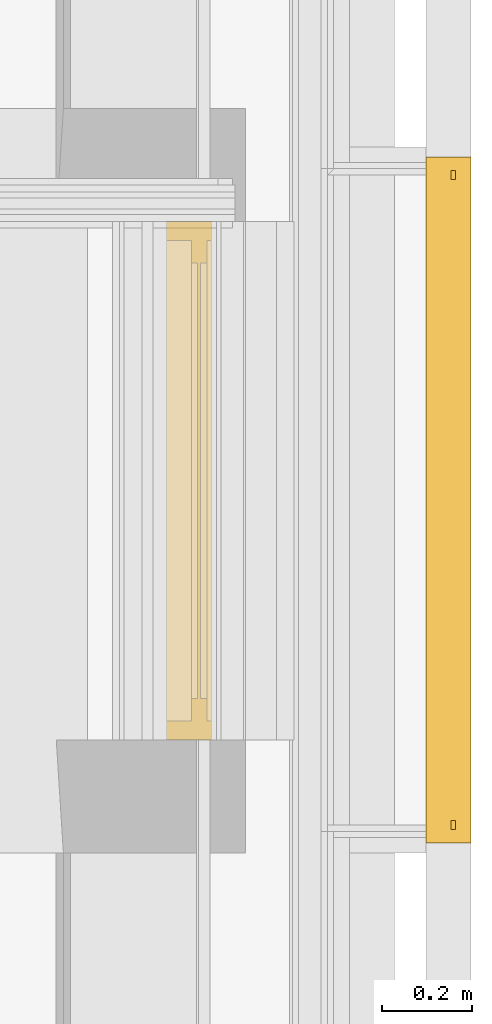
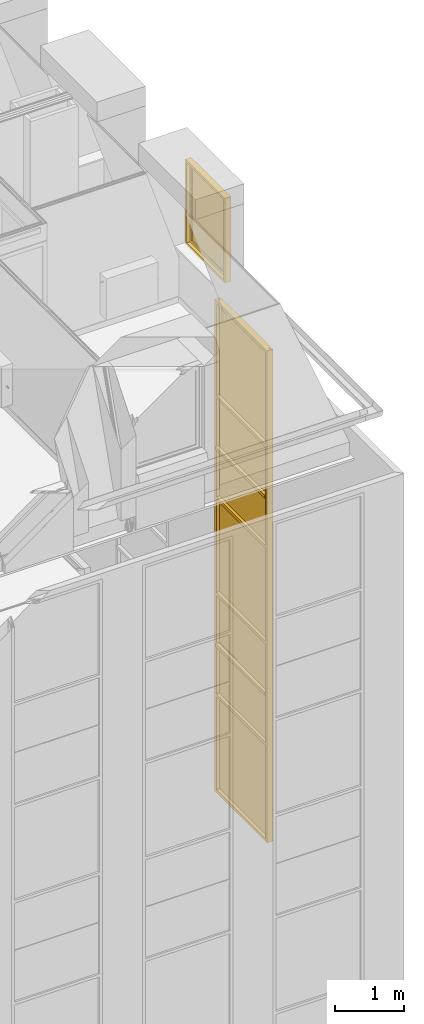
# One storey, part 130 of 169: 1 curtain wall, 1 window.
"""IFC2X3 building model written with IfcOpenShell, lengths in metres."""

import ifcopenshell
import ifcopenshell.guid

model = None  # the IFC model being written
_history = None  # IfcOwnerHistory: only IFC2X3 demands one
_inside = {}  # id of a spatial element -> (the spatial element, [elements in it])
_under = {}  # id of a project, library or spatial element -> (it, [spatial elements below it])
_declared = {}  # id of a project -> (the project, [libraries it declares])
_typed = {}  # id of a type object -> (the type object, [elements of that type])
_made_of = {}  # id of a material, layer set ... -> (it, [elements and type objects made of it])


def new_model(schema):
    """Start an empty IFC model of exactly this schema.

    Asked for "IFC4X3", IfcOpenShell would pick the latest addendum, in which some entities
    have other attributes; the version numbers below select the first issue.
    IFC2X3 requires an IfcOwnerHistory on every rooted entity: one is made here for all.
    """
    global model, _history
    if schema == "IFC4X3":
        model = ifcopenshell.file(schema_version=(4, 3, 0, 0))
    else:
        model = ifcopenshell.file(schema=schema)
    _inside.clear()
    _under.clear()
    _declared.clear()
    _typed.clear()
    _made_of.clear()
    _history = None
    if model.schema == "IFC2X3":
        org = make("IfcOrganization", Name="unknown")
        user = make(
            "IfcPersonAndOrganization",
            ThePerson=make("IfcPerson", FamilyName="unknown"),
            TheOrganization=org,
        )
        app = make(
            "IfcApplication",
            ApplicationDeveloper=org,
            Version="unknown",
            ApplicationFullName="unknown",
            ApplicationIdentifier="unknown",
        )
        _history = make(
            "IfcOwnerHistory",
            OwningUser=user,
            OwningApplication=app,
            ChangeAction="ADDED",
            CreationDate=0,
        )
    return model


def make(cls, **values):
    """One entity of the class cls with the attributes given. An attribute that is None is left unset."""
    return model.create_entity(
        cls, **{name: value for name, value in values.items() if value is not None}
    )


def entity(cls, *values):
    """Any entity or typed value of the class cls, its attributes in the order of the schema. None: left unset."""
    e = model.create_entity(cls)
    for i, value in enumerate(values):
        if value is not None:
            e[i] = value
    return e


def rooted(cls, **values):
    """An entity with a GlobalId (a new one), such as an element, a storey or a relation."""
    return make(cls, GlobalId=ifcopenshell.guid.new(), OwnerHistory=_history, **values)


def si_unit(unit_type, name, prefix=None):
    """IfcSIUnit, for example si_unit("LENGTHUNIT", "METRE", prefix="MILLI")."""
    return make("IfcSIUnit", UnitType=unit_type, Prefix=prefix, Name=name)


def converted_unit(unit_type, name, factor, base, dimensions=None, offset=None):
    """IfcConversionBasedUnit, such as the inch: factor (a typed value) times the base unit."""
    return make(
        "IfcConversionBasedUnit"
        if offset is None
        else "IfcConversionBasedUnitWithOffset",
        ConversionOffset=offset,
        Dimensions=None
        if dimensions is None
        else entity("IfcDimensionalExponents", *dimensions),
        UnitType=unit_type,
        Name=name,
        ConversionFactor=make(
            "IfcMeasureWithUnit", ValueComponent=factor, UnitComponent=base
        ),
    )


def derived_unit(unit_type, elements):
    """IfcDerivedUnit: a product of units, each with its exponent."""
    return make(
        "IfcDerivedUnit",
        Elements=[
            make("IfcDerivedUnitElement", Unit=unit, Exponent=power)
            for unit, power in elements
        ],
        UnitType=unit_type,
    )


def money_unit(currency):
    """IfcMonetaryUnit."""
    return make("IfcMonetaryUnit", Currency=currency)


def assignment(units):
    """IfcUnitAssignment: the units of a project."""
    return None if units is None else make("IfcUnitAssignment", Units=units)


def point(xyz):
    """IfcCartesianPoint."""
    return None if xyz is None else make("IfcCartesianPoint", Coordinates=xyz)


def direction(xyz):
    """IfcDirection."""
    return None if xyz is None else make("IfcDirection", DirectionRatios=xyz)


def frame(location, z_axis=None, x_axis=None):
    """IfcAxis2Placement3D, a coordinate frame: its origin and axes. An axis left out is left unset."""
    return make(
        "IfcAxis2Placement3D",
        Location=point(location),
        Axis=direction(z_axis),
        RefDirection=direction(x_axis),
    )


def origin_with_axes():
    """The frame at (0, 0, 0) with the z axis (0, 0, 1) and the x axis (1, 0, 0) written out."""
    return frame((0.0, 0.0, 0.0), z_axis=(0.0, 0.0, 1.0), x_axis=(1.0, 0.0, 0.0))


def place(relative_to, where):
    """IfcLocalPlacement: puts the frame where relative to a parent placement (None: the world)."""
    return make(
        "IfcLocalPlacement", PlacementRelTo=relative_to, RelativePlacement=where
    )


def context(
    kind, dimensions, precision=None, world=None, true_north=None, identifier=None
):
    """IfcGeometricRepresentationContext, for example the 3D "Model" context."""
    return make(
        "IfcGeometricRepresentationContext",
        ContextIdentifier=identifier,
        ContextType=kind,
        CoordinateSpaceDimension=dimensions,
        Precision=precision,
        WorldCoordinateSystem=world,
        TrueNorth=true_north,
    )


def subcontext(parent, identifier, kind, view, scale=None):
    """IfcGeometricRepresentationSubContext, for example "Body" below "Model"."""
    return make(
        "IfcGeometricRepresentationSubContext",
        ContextIdentifier=identifier,
        ContextType=kind,
        ParentContext=parent,
        TargetScale=scale,
        TargetView=view,
    )


def project(units=None, contexts=None):
    """IfcProject with its units and contexts."""
    return rooted(
        "IfcProject",
        Name="project",
        RepresentationContexts=contexts,
        UnitsInContext=assignment(units),
    )


def spatial(cls, under=None, at=None, **own):
    """A site, building, storey or space (cls), placed at a placement, below another one or the project."""
    s = rooted(cls, ObjectPlacement=at, **own)
    if under is not None:
        _under.setdefault(under.id(), (under, []))[1].append(s)
    return s


def faces_of(points, faces, orient=None, outer=None):
    """IfcFace entities. A face is a list of loops; a loop is a list of indices into points, from 0.

    orient and outer hold one flag for each loop. By default every Orientation is true, the
    first loop of a face is its IfcFaceOuterBound and the others are IfcFaceBound.
    """
    made = []
    for i, loops in enumerate(faces):
        bounds = []
        for j, loop in enumerate(loops):
            is_outer = j == 0 if outer is None else outer[i][j]
            bounds.append(
                make(
                    "IfcFaceOuterBound" if is_outer else "IfcFaceBound",
                    Bound=make("IfcPolyLoop", Polygon=[points[k] for k in loop]),
                    Orientation=True if orient is None else orient[i][j],
                )
            )
        made.append(make("IfcFace", Bounds=bounds))
    return made


def faceted_brep(points, faces, orient=None, outer=None, voids=None):
    """IfcFacetedBrep: a solid bounded by flat faces; with voids (closed shells), ...WithVoids."""
    shared = [point(p) for p in points]
    hull = make("IfcClosedShell", CfsFaces=faces_of(shared, faces, orient, outer))
    if voids is None:
        return make("IfcFacetedBrep", Outer=hull)
    return make(
        "IfcFacetedBrepWithVoids",
        Outer=hull,
        Voids=[
            make(cls, CfsFaces=faces_of(shared, fs, o, b)) for cls, fs, o, b in voids
        ],
    )


def shape(context_of_items, identifier, shape_type, items):
    """IfcShapeRepresentation: the items that make up one representation, for example the "Body"."""
    return make(
        "IfcShapeRepresentation",
        ContextOfItems=context_of_items,
        RepresentationIdentifier=identifier,
        RepresentationType=shape_type,
        Items=items,
    )


def material(Name=None, Category=None):
    """IfcMaterial."""
    return make("IfcMaterial", Name=Name, Category=Category)


def made_of(thing, what):
    """Note that an element or type object is made of a material, layer set ...; save() writes the relation."""
    if what is not None:
        _made_of.setdefault(what.id(), (what, []))[1].append(thing)
    return thing


def type_object(cls, material=None, **own):
    """A type object (cls), such as IfcWallType, which elements share."""
    return made_of(rooted(cls, **own), material)


def element(
    cls,
    number,
    at=None,
    inside=None,
    cuts=None,
    type_object=None,
    material=None,
    context=None,
    identifier="Body",
    shape_type=None,
    held_by="IfcProductDefinitionShape",
    body=None,
    shapes=None,
    **own,
):
    """One element of the class cls, such as IfcWall. Its Tag is "e" and its number.

    at: its placement. inside: the storey or other place that contains it. cuts: it is an
    opening in that element (IfcRelVoidsElement). A single representation is given by context,
    identifier, shape_type and body (its items); several are given by shapes. held_by: the class
    of the entity that holds the representations. save() writes the other relations.
    """
    e = rooted(cls, Tag="e%d" % number, ObjectPlacement=at, **own)
    if body is not None:
        shapes = [shape(context, identifier, shape_type, body)]
    if shapes is not None:
        e.Representation = make(held_by, Representations=shapes)
    if inside is not None:
        _inside.setdefault(inside.id(), (inside, []))[1].append(e)
    if cuts is not None:
        rooted(
            "IfcRelVoidsElement", RelatingBuildingElement=cuts, RelatedOpeningElement=e
        )
    if type_object is not None:
        _typed.setdefault(type_object.id(), (type_object, []))[1].append(e)
    return made_of(e, material)


def aggregate(whole, parts):
    """IfcRelAggregates: a whole, such as a stair, and the parts it consists of."""
    return rooted("IfcRelAggregates", RelatingObject=whole, RelatedObjects=parts)


def save(model, path):
    """Write the relations noted so far, then the file.

    IfcRelAggregates (storeys below a building ...), IfcRelContainedInSpatialStructure (elements
    in a storey), IfcRelDefinesByType, IfcRelAssociatesMaterial and IfcRelDeclares: one each for
    every whole, place, type object, material and project.
    """
    for whole, parts in _under.values():
        aggregate(whole, parts)
    for where, things in _inside.values():
        rooted(
            "IfcRelContainedInSpatialStructure",
            RelatedElements=things,
            RelatingStructure=where,
        )
    for kind, things in _typed.values():
        rooted("IfcRelDefinesByType", RelatedObjects=things, RelatingType=kind)
    for what, things in _made_of.values():
        rooted("IfcRelAssociatesMaterial", RelatedObjects=things, RelatingMaterial=what)
    for by, libraries in _declared.values():
        rooted("IfcRelDeclares", RelatingContext=by, RelatedDefinitions=libraries)
    model.write(path)


model = new_model("IFC2X3")

# Units and contexts
model_context = context("Model", 3, precision=1e-05, world=origin_with_axes(), true_north=direction((0.0, 1.0)))
body_context = subcontext(model_context, "Body", "Model", "MODEL_VIEW", scale=1.0)
ifc_project = project(units=[si_unit("LENGTHUNIT", "METRE"), si_unit("AREAUNIT", "SQUARE_METRE"), si_unit("VOLUMEUNIT", "CUBIC_METRE"), si_unit("ABSORBEDDOSEUNIT", "GRAY"), si_unit("AMOUNTOFSUBSTANCEUNIT", "MOLE"), si_unit("DOSEEQUIVALENTUNIT", "SIEVERT"), si_unit("ELECTRICCAPACITANCEUNIT", "FARAD"), si_unit("ELECTRICCHARGEUNIT", "COULOMB"), si_unit("ELECTRICCONDUCTANCEUNIT", "SIEMENS"), si_unit("ELECTRICCURRENTUNIT", "AMPERE"), si_unit("ELECTRICRESISTANCEUNIT", "OHM"), si_unit("ELECTRICVOLTAGEUNIT", "VOLT"), si_unit("ENERGYUNIT", "JOULE"), si_unit("FORCEUNIT", "NEWTON"), si_unit("FREQUENCYUNIT", "HERTZ"), si_unit("ILLUMINANCEUNIT", "LUX"), si_unit("INDUCTANCEUNIT", "HENRY"), si_unit("LUMINOUSFLUXUNIT", "LUMEN"), si_unit("LUMINOUSINTENSITYUNIT", "CANDELA"), si_unit("MAGNETICFLUXDENSITYUNIT", "TESLA"), si_unit("MAGNETICFLUXUNIT", "WEBER"), si_unit("MASSUNIT", "GRAM"), converted_unit("PLANEANGLEUNIT", "degree", entity("IfcReal", 0.0174532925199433), si_unit("PLANEANGLEUNIT", "RADIAN"), dimensions=[0, 0, 0, 0, 0, 0, 0]), si_unit("POWERUNIT", "WATT"), si_unit("PRESSUREUNIT", "PASCAL"), si_unit("RADIOACTIVITYUNIT", "BECQUEREL"), si_unit("SOLIDANGLEUNIT", "STERADIAN"), si_unit("THERMODYNAMICTEMPERATUREUNIT", "KELVIN"), si_unit("TIMEUNIT", "SECOND"), derived_unit("ACCELERATIONUNIT", [(si_unit("LENGTHUNIT", "METRE"), 1), (si_unit("TIMEUNIT", "SECOND"), -2)]), derived_unit("ANGULARVELOCITYUNIT", [(converted_unit("PLANEANGLEUNIT", "degree", entity("IfcReal", 0.0174532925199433), si_unit("PLANEANGLEUNIT", "RADIAN"), dimensions=[0, 0, 0, 0, 0, 0, 0]), 1), (si_unit("TIMEUNIT", "SECOND"), -1)]), derived_unit("CURVATUREUNIT", [(converted_unit("PLANEANGLEUNIT", "degree", entity("IfcReal", 0.0174532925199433), si_unit("PLANEANGLEUNIT", "RADIAN"), dimensions=[0, 0, 0, 0, 0, 0, 0]), 1), (si_unit("LENGTHUNIT", "METRE"), -1)]), derived_unit("DYNAMICVISCOSITYUNIT", [(si_unit("PRESSUREUNIT", "PASCAL"), 1), (si_unit("TIMEUNIT", "SECOND"), 1)]), derived_unit("HEATFLUXDENSITYUNIT", [(si_unit("POWERUNIT", "WATT"), 1), (si_unit("LENGTHUNIT", "METRE"), -2)]), derived_unit("HEATINGVALUEUNIT", [(si_unit("ENERGYUNIT", "JOULE"), 1), (si_unit("MASSUNIT", "GRAM"), -1)]), derived_unit("INTEGERCOUNTRATEUNIT", [(si_unit("TIMEUNIT", "SECOND"), -1)]), derived_unit("IONCONCENTRATIONUNIT", [(si_unit("MASSUNIT", "GRAM"), 1), (si_unit("VOLUMEUNIT", "CUBIC_METRE"), -1)]), derived_unit("ISOTHERMALMOISTURECAPACITYUNIT", [(si_unit("VOLUMEUNIT", "CUBIC_METRE"), 1), (si_unit("MASSUNIT", "GRAM"), -1)]), derived_unit("KINEMATICVISCOSITYUNIT", [(si_unit("AREAUNIT", "SQUARE_METRE"), 1), (si_unit("TIMEUNIT", "SECOND"), -1)]), derived_unit("LINEARFORCEUNIT", [(si_unit("FORCEUNIT", "NEWTON"), 1), (si_unit("LENGTHUNIT", "METRE"), -1)]), derived_unit("LINEARMOMENTUNIT", [(si_unit("FORCEUNIT", "NEWTON"), 1), (si_unit("LENGTHUNIT", "METRE"), -1)]), derived_unit("LINEARSTIFFNESSUNIT", [(si_unit("FORCEUNIT", "NEWTON"), 1), (si_unit("LENGTHUNIT", "METRE"), -1)]), derived_unit("LINEARVELOCITYUNIT", [(si_unit("LENGTHUNIT", "METRE"), 1), (si_unit("TIMEUNIT", "SECOND"), -1)]), derived_unit("LUMINOUSINTENSITYDISTRIBUTIONUNIT", [(si_unit("LUMINOUSINTENSITYUNIT", "CANDELA"), 1), (si_unit("LUMINOUSFLUXUNIT", "LUMEN"), -1)]), derived_unit("MASSDENSITYUNIT", [(si_unit("MASSUNIT", "GRAM"), 1), (si_unit("VOLUMEUNIT", "CUBIC_METRE"), -1)]), derived_unit("MASSFLOWRATEUNIT", [(si_unit("MASSUNIT", "GRAM"), 1), (si_unit("TIMEUNIT", "SECOND"), -1)]), derived_unit("MASSPERLENGTHUNIT", [(si_unit("MASSUNIT", "GRAM"), 1), (si_unit("LENGTHUNIT", "METRE"), -1)]), derived_unit("MODULUSOFELASTICITYUNIT", [(si_unit("FORCEUNIT", "NEWTON"), 1), (si_unit("AREAUNIT", "SQUARE_METRE"), -1)]), derived_unit("MODULUSOFLINEARSUBGRADEREACTIONUNIT", [(si_unit("FORCEUNIT", "NEWTON"), 1), (si_unit("LENGTHUNIT", "METRE"), -2)]), derived_unit("MODULUSOFROTATIONALSUBGRADEREACTIONUNIT", [(si_unit("FORCEUNIT", "NEWTON"), 1), (si_unit("LENGTHUNIT", "METRE"), 1)]), derived_unit("MODULUSOFSUBGRADEREACTIONUNIT", [(si_unit("FORCEUNIT", "NEWTON"), 1), (si_unit("VOLUMEUNIT", "CUBIC_METRE"), -1)]), derived_unit("MOISTUREDIFFUSIVITYUNIT", [(si_unit("VOLUMEUNIT", "CUBIC_METRE"), 1), (si_unit("TIMEUNIT", "SECOND"), -1)]), derived_unit("MOLECULARWEIGHTUNIT", [(si_unit("MASSUNIT", "GRAM"), 1), (si_unit("AMOUNTOFSUBSTANCEUNIT", "MOLE"), -1)]), derived_unit("PLANARFORCEUNIT", [(si_unit("FORCEUNIT", "NEWTON"), 1), (si_unit("LENGTHUNIT", "METRE"), -2)]), derived_unit("ROTATIONALFREQUENCYUNIT", [(si_unit("TIMEUNIT", "SECOND"), -1)]), derived_unit("ROTATIONALMASSUNIT", [(si_unit("MASSUNIT", "GRAM"), 1), (si_unit("LENGTHUNIT", "METRE"), 2)]), derived_unit("ROTATIONALSTIFFNESSUNIT", [(si_unit("FORCEUNIT", "NEWTON"), 1), (si_unit("LENGTHUNIT", "METRE"), 1), (converted_unit("PLANEANGLEUNIT", "degree", entity("IfcReal", 0.0174532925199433), si_unit("PLANEANGLEUNIT", "RADIAN"), dimensions=[0, 0, 0, 0, 0, 0, 0]), -1)]), derived_unit("SECTIONAREAINTEGRALUNIT", [(si_unit("LENGTHUNIT", "METRE"), 5)]), derived_unit("SECTIONMODULUSUNIT", [(si_unit("LENGTHUNIT", "METRE"), 3)]), derived_unit("SHEARMODULUSUNIT", [(si_unit("FORCEUNIT", "NEWTON"), 1), (si_unit("AREAUNIT", "SQUARE_METRE"), -1)]), derived_unit("SOUNDPOWERUNIT", [(si_unit("ENERGYUNIT", "JOULE"), 1), (si_unit("TIMEUNIT", "SECOND"), -1)]), derived_unit("SPECIFICHEATCAPACITYUNIT", [(si_unit("FORCEUNIT", "NEWTON"), 1), (si_unit("MASSUNIT", "GRAM"), -1), (si_unit("THERMODYNAMICTEMPERATUREUNIT", "KELVIN"), -1)]), derived_unit("TEMPERATUREGRADIENTUNIT", [(si_unit("THERMODYNAMICTEMPERATUREUNIT", "KELVIN"), 1), (si_unit("LENGTHUNIT", "METRE"), -1)]), derived_unit("THERMALADMITTANCEUNIT", [(si_unit("POWERUNIT", "WATT"), 1), (si_unit("AREAUNIT", "SQUARE_METRE"), -1), (si_unit("THERMODYNAMICTEMPERATUREUNIT", "KELVIN"), -1)]), derived_unit("THERMALCONDUCTANCEUNIT", [(si_unit("POWERUNIT", "WATT"), 1), (si_unit("LENGTHUNIT", "METRE"), -1), (si_unit("THERMODYNAMICTEMPERATUREUNIT", "KELVIN"), -1)]), derived_unit("THERMALEXPANSIONCOEFFICIENTUNIT", [(si_unit("THERMODYNAMICTEMPERATUREUNIT", "KELVIN"), -1)]), derived_unit("THERMALRESISTANCEUNIT", [(si_unit("AREAUNIT", "SQUARE_METRE"), 1), (si_unit("POWERUNIT", "WATT"), -1)]), derived_unit("THERMALTRANSMITTANCEUNIT", [(si_unit("POWERUNIT", "WATT"), 1), (si_unit("AREAUNIT", "SQUARE_METRE"), -1), (si_unit("THERMODYNAMICTEMPERATUREUNIT", "KELVIN"), -1)]), derived_unit("TORQUEUNIT", [(si_unit("FORCEUNIT", "NEWTON"), 1), (si_unit("LENGTHUNIT", "METRE"), 1)]), derived_unit("VAPORPERMEABILITYUNIT", [(si_unit("MASSUNIT", "GRAM"), 1), (si_unit("TIMEUNIT", "SECOND"), -1)]), derived_unit("VOLUMETRICFLOWRATEUNIT", [(si_unit("VOLUMEUNIT", "CUBIC_METRE"), 1), (si_unit("TIMEUNIT", "SECOND"), -1)]), derived_unit("WARPINGCONSTANTUNIT", [(si_unit("LENGTHUNIT", "METRE"), 6)]), derived_unit("WARPINGMOMENTUNIT", [(si_unit("FORCEUNIT", "NEWTON"), 1), (si_unit("LENGTHUNIT", "METRE"), 2)]), money_unit("GBP")], contexts=[model_context])

# Site, building, storey
site_placement = place(None, origin_with_axes())
site = spatial("IfcSite", under=ifc_project, at=site_placement, Name="Site", CompositionType="ELEMENT")
building_placement = place(site_placement, origin_with_axes())
building = spatial("IfcBuilding", under=site, at=building_placement, Name="Building01", CompositionType="ELEMENT")
storey_placement = place(building_placement, frame((0.0, 0.0, 5.15), z_axis=(0.0, 0.0, 1.0), x_axis=(1.0, 0.0, 0.0)))
storey = spatial("IfcBuildingStorey", under=building, at=storey_placement, Name="1F", CompositionType="ELEMENT", Elevation=5.15)

# Curtain wall
ifc_material_1 = material(Name="A-CurtainWall_Frame")
curtain_wall_type = type_object("IfcCurtainWallType", Name="Pattern - Maximum Spacing", PredefinedType="NOTDEFINED")
curtain_wall_placement = place(storey_placement, frame((0.0, 0.0, -5.15), z_axis=(0.0, 0.0, 1.0), x_axis=(1.0, 0.0, 0.0)))
element("IfcCurtainWall", 1, at=curtain_wall_placement, inside=storey, type_object=curtain_wall_type, material=ifc_material_1, Name="28", ObjectType="Pattern - Maximum Spacing", context=body_context, shape_type="Brep", body=[
    faceted_brep([(26.935, 3.82718, 6.045508), (26.945, 3.82718, 6.045508), (26.945, 3.82718, 7.729632), (26.935, 3.82718, 7.729632), (26.935, 5.28718, 6.045508), (26.945, 5.28718, 6.045508), (26.935, 5.28718, 7.729632), (26.945, 5.28718, 7.729632)], [[[0, 1, 2, 3]], [[4, 5, 1, 0]], [[6, 7, 5, 4]], [[3, 2, 7, 6]], [[1, 5, 7, 2]], [[3, 6, 4, 0]]]),
    faceted_brep([(26.935, 3.82718, 6.015508), (26.945, 3.82718, 6.015508), (26.945, 3.84718, 6.015508), (26.98, 3.84718, 6.015508), (26.98, 3.79718, 6.015508), (26.88, 3.79718, 6.015508), (26.88, 3.84718, 6.015508), (26.935, 3.84718, 6.015508), (26.935, 3.84718, 7.734632), (26.935, 3.82718, 7.734632), (26.945, 3.82718, 7.734632), (26.945, 3.84718, 7.734632), (26.98, 3.84718, 7.734632), (26.98, 3.79718, 7.734632), (26.88, 3.79718, 7.734632), (26.88, 3.84718, 7.734632)], [[[0, 1, 2, 3, 4, 5, 6, 7]], [[7, 8, 9, 0]], [[0, 9, 10, 1]], [[1, 10, 11, 2]], [[2, 11, 12, 3]], [[3, 12, 13, 4]], [[4, 13, 14, 5]], [[5, 14, 15, 6]], [[6, 15, 8, 7]]]),
    faceted_brep([(26.935, 5.26718, 6.045508), (26.945, 5.26718, 6.045508), (26.945, 5.26718, 6.065508), (26.98, 5.26718, 6.065508), (26.98, 5.26718, 6.015508), (26.88, 5.26718, 6.015508), (26.88, 5.26718, 6.065508), (26.935, 5.26718, 6.065508), (26.935, 3.84718, 6.065508), (26.935, 3.84718, 6.045508), (26.945, 3.84718, 6.045508), (26.945, 3.84718, 6.065508), (26.98, 3.84718, 6.065508), (26.98, 3.84718, 6.015508), (26.88, 3.84718, 6.015508), (26.88, 3.84718, 6.065508)], [[[0, 1, 2, 3, 4, 5, 6, 7]], [[7, 8, 9, 0]], [[0, 9, 10, 1]], [[1, 10, 11, 2]], [[2, 11, 12, 3]], [[3, 12, 13, 4]], [[4, 13, 14, 5]], [[5, 14, 15, 6]], [[6, 15, 8, 7]], [[8, 15, 14, 13, 12, 11, 10, 9]]]),
    faceted_brep([(26.88, 5.26718, 6.015508), (26.88, 5.26718, 7.734632), (26.88, 5.31718, 7.734632), (26.88, 5.31718, 6.015508), (26.935, 5.26718, 6.015508), (26.935, 5.26718, 7.734632), (26.935, 5.28718, 6.015508), (26.935, 5.28718, 7.734632), (26.945, 5.28718, 6.015508), (26.945, 5.28718, 7.734632), (26.945, 5.26718, 6.015508), (26.945, 5.26718, 7.734632), (26.98, 5.26718, 6.015508), (26.98, 5.26718, 7.734632), (26.98, 5.31718, 6.015508), (26.98, 5.31718, 7.734632)], [[[0, 1, 2, 3]], [[4, 5, 1, 0]], [[6, 7, 5, 4]], [[8, 9, 7, 6]], [[10, 11, 9, 8]], [[12, 13, 11, 10]], [[14, 15, 13, 12]], [[3, 2, 15, 14]], [[14, 12, 10, 8, 6, 4, 0, 3]]]),
    faceted_brep([(26.935, 3.84718, 7.729632), (26.945, 3.84718, 7.729632), (26.945, 3.84718, 7.709632), (26.98, 3.84718, 7.709632), (26.98, 3.84718, 7.759632), (26.945, 3.84718, 7.759632), (26.945, 3.84718, 7.739632), (26.935, 3.84718, 7.739632), (26.935, 3.84718, 7.759632), (26.88, 3.84718, 7.759632), (26.88, 3.84718, 7.709632), (26.935, 3.84718, 7.709632), (26.935, 5.26718, 7.709632), (26.935, 5.26718, 7.729632), (26.945, 5.26718, 7.729632), (26.945, 5.26718, 7.709632), (26.98, 5.26718, 7.709632), (26.98, 5.26718, 7.759632), (26.945, 5.26718, 7.759632), (26.935, 5.26718, 7.739632), (26.935, 5.26718, 7.759632), (26.945, 5.26718, 7.739632), (26.88, 5.26718, 7.709632), (26.88, 5.26718, 7.759632)], [[[0, 1, 2, 3, 4, 5, 6, 7, 8, 9, 10, 11]], [[11, 12, 13, 0]], [[0, 13, 14, 1]], [[1, 14, 15, 2]], [[2, 15, 16, 3]], [[3, 16, 17, 4]], [[4, 17, 18, 5]], [[7, 19, 20, 8]], [[6, 21, 19, 7]], [[5, 18, 21, 6]], [[10, 22, 12, 11]], [[9, 23, 22, 10]], [[8, 20, 23, 9]], [[20, 19, 21, 18, 17, 16, 15, 14, 13, 12, 22, 23]]]),
    faceted_brep([(26.93, 3.82718, 7.739632), (26.95, 3.82718, 7.739632), (26.95, 3.82718, 8.626522), (26.93, 3.82718, 8.626522), (26.93, 5.28718, 7.739632), (26.95, 5.28718, 7.739632), (26.93, 5.28718, 8.626522), (26.95, 5.28718, 8.626522)], [[[0, 1, 2, 3]], [[4, 5, 1, 0]], [[6, 7, 5, 4]], [[3, 2, 7, 6]], [[1, 5, 7, 2]], [[3, 6, 4, 0]]]),
    faceted_brep([(26.88, 3.84718, 8.631522), (26.88, 3.84718, 7.734632), (26.88, 3.79718, 7.734632), (26.88, 3.79718, 8.631522), (26.935, 3.84718, 8.631522), (26.935, 3.84718, 7.734632), (26.935, 3.82718, 8.631522), (26.935, 3.82718, 7.734632), (26.945, 3.82718, 8.631522), (26.945, 3.82718, 7.734632), (26.945, 3.84718, 8.631522), (26.945, 3.84718, 7.734632), (26.98, 3.84718, 8.631522), (26.98, 3.84718, 7.734632), (26.98, 3.79718, 8.631522), (26.98, 3.79718, 7.734632)], [[[0, 1, 2, 3]], [[4, 5, 1, 0]], [[6, 7, 5, 4]], [[8, 9, 7, 6]], [[10, 11, 9, 8]], [[12, 13, 11, 10]], [[14, 15, 13, 12]], [[3, 2, 15, 14]]]),
    faceted_brep([(26.88, 5.26718, 7.734632), (26.88, 5.26718, 8.631522), (26.88, 5.31718, 8.631522), (26.88, 5.31718, 7.734632), (26.935, 5.26718, 7.734632), (26.935, 5.26718, 8.631522), (26.935, 5.28718, 7.734632), (26.935, 5.28718, 8.631522), (26.945, 5.28718, 7.734632), (26.945, 5.28718, 8.631522), (26.945, 5.26718, 7.734632), (26.945, 5.26718, 8.631522), (26.98, 5.26718, 7.734632), (26.98, 5.26718, 8.631522), (26.98, 5.31718, 7.734632), (26.98, 5.31718, 8.631522)], [[[0, 1, 2, 3]], [[4, 5, 1, 0]], [[6, 7, 5, 4]], [[8, 9, 7, 6]], [[10, 11, 9, 8]], [[12, 13, 11, 10]], [[14, 15, 13, 12]], [[3, 2, 15, 14]]]),
    faceted_brep([(26.9175, 3.84718, 8.626522), (26.9275, 3.84718, 8.626522), (26.9275, 3.84718, 8.606522), (26.9625, 3.84718, 8.606522), (26.9625, 3.84718, 8.656522), (26.9275, 3.84718, 8.656522), (26.9275, 3.84718, 8.636522), (26.9175, 3.84718, 8.636522), (26.9175, 3.84718, 8.656522), (26.8625, 3.84718, 8.656522), (26.8625, 3.84718, 8.606522), (26.9175, 3.84718, 8.606522), (26.9175, 5.26718, 8.606522), (26.9175, 5.26718, 8.626522), (26.9275, 5.26718, 8.626522), (26.9275, 5.26718, 8.606522), (26.9625, 5.26718, 8.606522), (26.9625, 5.26718, 8.656522), (26.9275, 5.26718, 8.656522), (26.9175, 5.26718, 8.636522), (26.9175, 5.26718, 8.656522), (26.9275, 5.26718, 8.636522), (26.8625, 5.26718, 8.606522), (26.8625, 5.26718, 8.656522)], [[[0, 1, 2, 3, 4, 5, 6, 7, 8, 9, 10, 11]], [[11, 12, 13, 0]], [[0, 13, 14, 1]], [[1, 14, 15, 2]], [[2, 15, 16, 3]], [[3, 16, 17, 4]], [[4, 17, 18, 5]], [[7, 19, 20, 8]], [[6, 21, 19, 7]], [[5, 18, 21, 6]], [[10, 22, 12, 11]], [[9, 23, 22, 10]], [[8, 20, 23, 9]], [[20, 19, 21, 18, 17, 16, 15, 14, 13, 12, 22, 23]]]),
    faceted_brep([(26.93, 3.82718, 8.636522), (26.95, 3.82718, 8.636522), (26.95, 3.82718, 9.523411), (26.93, 3.82718, 9.523411), (26.93, 5.28718, 8.636522), (26.95, 5.28718, 8.636522), (26.93, 5.28718, 9.523411), (26.95, 5.28718, 9.523411)], [[[0, 1, 2, 3]], [[4, 5, 1, 0]], [[6, 7, 5, 4]], [[3, 2, 7, 6]], [[1, 5, 7, 2]], [[3, 6, 4, 0]]]),
    faceted_brep([(26.88, 3.84718, 9.528411), (26.88, 3.84718, 8.631522), (26.88, 3.79718, 8.631522), (26.88, 3.79718, 9.528411), (26.935, 3.84718, 9.528411), (26.935, 3.84718, 8.631522), (26.935, 3.82718, 9.528411), (26.935, 3.82718, 8.631522), (26.945, 3.82718, 9.528411), (26.945, 3.82718, 8.631522), (26.945, 3.84718, 9.528411), (26.945, 3.84718, 8.631522), (26.98, 3.84718, 9.528411), (26.98, 3.84718, 8.631522), (26.98, 3.79718, 9.528411), (26.98, 3.79718, 8.631522)], [[[0, 1, 2, 3]], [[4, 5, 1, 0]], [[6, 7, 5, 4]], [[8, 9, 7, 6]], [[10, 11, 9, 8]], [[12, 13, 11, 10]], [[14, 15, 13, 12]], [[3, 2, 15, 14]]]),
    faceted_brep([(26.88, 5.26718, 8.631522), (26.88, 5.26718, 9.528411), (26.88, 5.31718, 9.528411), (26.88, 5.31718, 8.631522), (26.935, 5.26718, 8.631522), (26.935, 5.26718, 9.528411), (26.935, 5.28718, 8.631522), (26.935, 5.28718, 9.528411), (26.945, 5.28718, 8.631522), (26.945, 5.28718, 9.528411), (26.945, 5.26718, 8.631522), (26.945, 5.26718, 9.528411), (26.98, 5.26718, 8.631522), (26.98, 5.26718, 9.528411), (26.98, 5.31718, 8.631522), (26.98, 5.31718, 9.528411)], [[[0, 1, 2, 3]], [[4, 5, 1, 0]], [[6, 7, 5, 4]], [[8, 9, 7, 6]], [[10, 11, 9, 8]], [[12, 13, 11, 10]], [[14, 15, 13, 12]], [[3, 2, 15, 14]]]),
    faceted_brep([(26.935, 3.84718, 9.523411), (26.945, 3.84718, 9.523411), (26.945, 3.84718, 9.503411), (26.98, 3.84718, 9.503411), (26.98, 3.84718, 9.553411), (26.945, 3.84718, 9.553411), (26.945, 3.84718, 9.533411), (26.935, 3.84718, 9.533411), (26.935, 3.84718, 9.553411), (26.88, 3.84718, 9.553411), (26.88, 3.84718, 9.503411), (26.935, 3.84718, 9.503411), (26.935, 5.26718, 9.503411), (26.935, 5.26718, 9.523411), (26.945, 5.26718, 9.523411), (26.945, 5.26718, 9.503411), (26.98, 5.26718, 9.503411), (26.98, 5.26718, 9.553411), (26.945, 5.26718, 9.553411), (26.935, 5.26718, 9.533411), (26.935, 5.26718, 9.553411), (26.945, 5.26718, 9.533411), (26.88, 5.26718, 9.503411), (26.88, 5.26718, 9.553411)], [[[0, 1, 2, 3, 4, 5, 6, 7, 8, 9, 10, 11]], [[11, 12, 13, 0]], [[0, 13, 14, 1]], [[1, 14, 15, 2]], [[2, 15, 16, 3]], [[3, 16, 17, 4]], [[4, 17, 18, 5]], [[7, 19, 20, 8]], [[6, 21, 19, 7]], [[5, 18, 21, 6]], [[10, 22, 12, 11]], [[9, 23, 22, 10]], [[8, 20, 23, 9]], [[20, 19, 21, 18, 17, 16, 15, 14, 13, 12, 22, 23]]]),
    faceted_brep([(26.935, 3.82718, 9.533411), (26.945, 3.82718, 9.533411), (26.945, 3.82718, 11.217536), (26.935, 3.82718, 11.217536), (26.935, 5.28718, 9.533411), (26.945, 5.28718, 9.533411), (26.935, 5.28718, 11.217536), (26.945, 5.28718, 11.217536)], [[[0, 1, 2, 3]], [[4, 5, 1, 0]], [[6, 7, 5, 4]], [[3, 2, 7, 6]], [[1, 5, 7, 2]], [[3, 6, 4, 0]]]),
    faceted_brep([(26.88, 3.84718, 11.222536), (26.88, 3.84718, 9.528411), (26.88, 3.79718, 9.528411), (26.88, 3.79718, 11.222536), (26.935, 3.84718, 11.222536), (26.935, 3.84718, 9.528411), (26.935, 3.82718, 11.222536), (26.935, 3.82718, 9.528411), (26.945, 3.82718, 11.222536), (26.945, 3.82718, 9.528411), (26.945, 3.84718, 11.222536), (26.945, 3.84718, 9.528411), (26.98, 3.84718, 11.222536), (26.98, 3.84718, 9.528411), (26.98, 3.79718, 11.222536), (26.98, 3.79718, 9.528411)], [[[0, 1, 2, 3]], [[4, 5, 1, 0]], [[6, 7, 5, 4]], [[8, 9, 7, 6]], [[10, 11, 9, 8]], [[12, 13, 11, 10]], [[14, 15, 13, 12]], [[3, 2, 15, 14]]]),
    faceted_brep([(26.88, 5.26718, 9.528411), (26.88, 5.26718, 11.222536), (26.88, 5.31718, 11.222536), (26.88, 5.31718, 9.528411), (26.935, 5.26718, 9.528411), (26.935, 5.26718, 11.222536), (26.935, 5.28718, 9.528411), (26.935, 5.28718, 11.222536), (26.945, 5.28718, 9.528411), (26.945, 5.28718, 11.222536), (26.945, 5.26718, 9.528411), (26.945, 5.26718, 11.222536), (26.98, 5.26718, 9.528411), (26.98, 5.26718, 11.222536), (26.98, 5.31718, 9.528411), (26.98, 5.31718, 11.222536)], [[[0, 1, 2, 3]], [[4, 5, 1, 0]], [[6, 7, 5, 4]], [[8, 9, 7, 6]], [[10, 11, 9, 8]], [[12, 13, 11, 10]], [[14, 15, 13, 12]], [[3, 2, 15, 14]]]),
    faceted_brep([(26.935, 3.84718, 11.217536), (26.945, 3.84718, 11.217536), (26.945, 3.84718, 11.197536), (26.98, 3.84718, 11.197536), (26.98, 3.84718, 11.247536), (26.945, 3.84718, 11.247536), (26.945, 3.84718, 11.227536), (26.935, 3.84718, 11.227536), (26.935, 3.84718, 11.247536), (26.88, 3.84718, 11.247536), (26.88, 3.84718, 11.197536), (26.935, 3.84718, 11.197536), (26.935, 5.26718, 11.197536), (26.935, 5.26718, 11.217536), (26.945, 5.26718, 11.217536), (26.945, 5.26718, 11.197536), (26.98, 5.26718, 11.197536), (26.98, 5.26718, 11.247536), (26.945, 5.26718, 11.247536), (26.935, 5.26718, 11.227536), (26.935, 5.26718, 11.247536), (26.945, 5.26718, 11.227536), (26.88, 5.26718, 11.197536), (26.88, 5.26718, 11.247536)], [[[0, 1, 2, 3, 4, 5, 6, 7, 8, 9, 10, 11]], [[11, 12, 13, 0]], [[0, 13, 14, 1]], [[1, 14, 15, 2]], [[2, 15, 16, 3]], [[3, 16, 17, 4]], [[4, 17, 18, 5]], [[7, 19, 20, 8]], [[6, 21, 19, 7]], [[5, 18, 21, 6]], [[10, 22, 12, 11]], [[9, 23, 22, 10]], [[8, 20, 23, 9]], [[20, 19, 21, 18, 17, 16, 15, 14, 13, 12, 22, 23]]]),
    faceted_brep([(26.93, 3.82718, 11.227536), (26.95, 3.82718, 11.227536), (26.95, 3.82718, 12.114425), (26.93, 3.82718, 12.114425), (26.93, 5.28718, 11.227536), (26.95, 5.28718, 11.227536), (26.93, 5.28718, 12.114425), (26.95, 5.28718, 12.114425)], [[[0, 1, 2, 3]], [[4, 5, 1, 0]], [[6, 7, 5, 4]], [[3, 2, 7, 6]], [[1, 5, 7, 2]], [[3, 6, 4, 0]]]),
    faceted_brep([(26.88, 3.84718, 12.119425), (26.88, 3.84718, 11.222536), (26.88, 3.79718, 11.222536), (26.88, 3.79718, 12.119425), (26.935, 3.84718, 12.119425), (26.935, 3.84718, 11.222536), (26.935, 3.82718, 12.119425), (26.935, 3.82718, 11.222536), (26.945, 3.82718, 12.119425), (26.945, 3.82718, 11.222536), (26.945, 3.84718, 12.119425), (26.945, 3.84718, 11.222536), (26.98, 3.84718, 12.119425), (26.98, 3.84718, 11.222536), (26.98, 3.79718, 12.119425), (26.98, 3.79718, 11.222536)], [[[0, 1, 2, 3]], [[4, 5, 1, 0]], [[6, 7, 5, 4]], [[8, 9, 7, 6]], [[10, 11, 9, 8]], [[12, 13, 11, 10]], [[14, 15, 13, 12]], [[3, 2, 15, 14]]]),
    faceted_brep([(26.88, 5.26718, 11.222536), (26.88, 5.26718, 12.119425), (26.88, 5.31718, 12.119425), (26.88, 5.31718, 11.222536), (26.935, 5.26718, 11.222536), (26.935, 5.26718, 12.119425), (26.935, 5.28718, 11.222536), (26.935, 5.28718, 12.119425), (26.945, 5.28718, 11.222536), (26.945, 5.28718, 12.119425), (26.945, 5.26718, 11.222536), (26.945, 5.26718, 12.119425), (26.98, 5.26718, 11.222536), (26.98, 5.26718, 12.119425), (26.98, 5.31718, 11.222536), (26.98, 5.31718, 12.119425)], [[[0, 1, 2, 3]], [[4, 5, 1, 0]], [[6, 7, 5, 4]], [[8, 9, 7, 6]], [[10, 11, 9, 8]], [[12, 13, 11, 10]], [[14, 15, 13, 12]], [[3, 2, 15, 14]]]),
    faceted_brep([(26.9175, 3.84718, 12.114425), (26.9275, 3.84718, 12.114425), (26.9275, 3.84718, 12.094425), (26.9625, 3.84718, 12.094425), (26.9625, 3.84718, 12.144425), (26.9275, 3.84718, 12.144425), (26.9275, 3.84718, 12.124425), (26.9175, 3.84718, 12.124425), (26.9175, 3.84718, 12.144425), (26.8625, 3.84718, 12.144425), (26.8625, 3.84718, 12.094425), (26.9175, 3.84718, 12.094425), (26.9175, 5.26718, 12.094425), (26.9175, 5.26718, 12.114425), (26.9275, 5.26718, 12.114425), (26.9275, 5.26718, 12.094425), (26.9625, 5.26718, 12.094425), (26.9625, 5.26718, 12.144425), (26.9275, 5.26718, 12.144425), (26.9175, 5.26718, 12.124425), (26.9175, 5.26718, 12.144425), (26.9275, 5.26718, 12.124425), (26.8625, 5.26718, 12.094425), (26.8625, 5.26718, 12.144425)], [[[0, 1, 2, 3, 4, 5, 6, 7, 8, 9, 10, 11]], [[11, 12, 13, 0]], [[0, 13, 14, 1]], [[1, 14, 15, 2]], [[2, 15, 16, 3]], [[3, 16, 17, 4]], [[4, 17, 18, 5]], [[7, 19, 20, 8]], [[6, 21, 19, 7]], [[5, 18, 21, 6]], [[10, 22, 12, 11]], [[9, 23, 22, 10]], [[8, 20, 23, 9]], [[20, 19, 21, 18, 17, 16, 15, 14, 13, 12, 22, 23]]]),
    faceted_brep([(26.935, 5.28718, 14.685508), (26.945, 5.28718, 14.685508), (26.945, 5.28718, 13.021314), (26.935, 5.28718, 13.021314), (26.935, 3.82718, 14.685508), (26.945, 3.82718, 14.685508), (26.935, 3.82718, 13.021314), (26.945, 3.82718, 13.021314)], [[[0, 1, 2, 3]], [[4, 5, 1, 0]], [[6, 7, 5, 4]], [[3, 2, 7, 6]], [[1, 5, 7, 2]], [[3, 6, 4, 0]]]),
    faceted_brep([(26.88, 5.26718, 14.715508), (26.935, 5.26718, 14.715508), (26.935, 5.28718, 14.715508), (26.945, 5.28718, 14.715508), (26.945, 5.26718, 14.715508), (26.98, 5.26718, 14.715508), (26.98, 5.31718, 14.715508), (26.88, 5.31718, 14.715508), (26.88, 5.31718, 13.016314), (26.88, 5.26718, 13.016314), (26.935, 5.26718, 13.016314), (26.935, 5.28718, 13.016314), (26.945, 5.28718, 13.016314), (26.945, 5.26718, 13.016314), (26.98, 5.26718, 13.016314), (26.98, 5.31718, 13.016314)], [[[0, 1, 2, 3, 4, 5, 6, 7]], [[7, 8, 9, 0]], [[0, 9, 10, 1]], [[1, 10, 11, 2]], [[2, 11, 12, 3]], [[3, 12, 13, 4]], [[4, 13, 14, 5]], [[5, 14, 15, 6]], [[6, 15, 8, 7]]]),
    faceted_brep([(26.88, 3.84718, 14.665508), (26.935, 3.84718, 14.665508), (26.935, 3.84718, 14.685508), (26.945, 3.84718, 14.685508), (26.945, 3.84718, 14.665508), (26.98, 3.84718, 14.665508), (26.98, 3.84718, 14.715508), (26.88, 3.84718, 14.715508), (26.88, 5.26718, 14.715508), (26.88, 5.26718, 14.665508), (26.935, 5.26718, 14.665508), (26.935, 5.26718, 14.685508), (26.945, 5.26718, 14.685508), (26.945, 5.26718, 14.665508), (26.98, 5.26718, 14.665508), (26.98, 5.26718, 14.715508)], [[[0, 1, 2, 3, 4, 5, 6, 7]], [[7, 8, 9, 0]], [[0, 9, 10, 1]], [[1, 10, 11, 2]], [[2, 11, 12, 3]], [[3, 12, 13, 4]], [[4, 13, 14, 5]], [[5, 14, 15, 6]], [[6, 15, 8, 7]], [[8, 15, 14, 13, 12, 11, 10, 9]]]),
    faceted_brep([(26.935, 3.82718, 14.715508), (26.935, 3.82718, 13.016314), (26.935, 3.84718, 13.016314), (26.935, 3.84718, 14.715508), (26.945, 3.82718, 14.715508), (26.945, 3.82718, 13.016314), (26.945, 3.84718, 14.715508), (26.945, 3.84718, 13.016314), (26.98, 3.84718, 14.715508), (26.98, 3.84718, 13.016314), (26.98, 3.79718, 14.715508), (26.98, 3.79718, 13.016314), (26.88, 3.79718, 14.715508), (26.88, 3.79718, 13.016314), (26.88, 3.84718, 14.715508), (26.88, 3.84718, 13.016314)], [[[0, 1, 2, 3]], [[4, 5, 1, 0]], [[6, 7, 5, 4]], [[8, 9, 7, 6]], [[10, 11, 9, 8]], [[12, 13, 11, 10]], [[14, 15, 13, 12]], [[3, 2, 15, 14]], [[14, 12, 10, 8, 6, 4, 0, 3]]]),
    faceted_brep([(26.945, 5.26718, 13.011314), (26.935, 5.26718, 13.011314), (26.935, 5.26718, 12.991314), (26.88, 5.26718, 12.991314), (26.88, 5.26718, 13.041314), (26.935, 5.26718, 13.041314), (26.935, 5.26718, 13.021314), (26.945, 5.26718, 13.021314), (26.945, 5.26718, 13.041314), (26.98, 5.26718, 13.041314), (26.98, 5.26718, 12.991314), (26.945, 5.26718, 12.991314), (26.945, 3.84718, 12.991314), (26.945, 3.84718, 13.011314), (26.935, 3.84718, 13.011314), (26.935, 3.84718, 12.991314), (26.88, 3.84718, 12.991314), (26.88, 3.84718, 13.041314), (26.935, 3.84718, 13.041314), (26.945, 3.84718, 13.021314), (26.945, 3.84718, 13.041314), (26.935, 3.84718, 13.021314), (26.98, 3.84718, 12.991314), (26.98, 3.84718, 13.041314)], [[[0, 1, 2, 3, 4, 5, 6, 7, 8, 9, 10, 11]], [[11, 12, 13, 0]], [[0, 13, 14, 1]], [[1, 14, 15, 2]], [[2, 15, 16, 3]], [[3, 16, 17, 4]], [[4, 17, 18, 5]], [[7, 19, 20, 8]], [[6, 21, 19, 7]], [[5, 18, 21, 6]], [[10, 22, 12, 11]], [[9, 23, 22, 10]], [[8, 20, 23, 9]], [[20, 19, 21, 18, 17, 16, 15, 14, 13, 12, 22, 23]]]),
    faceted_brep([(26.93, 3.82718, 12.124425), (26.95, 3.82718, 12.124425), (26.95, 3.82718, 13.011314), (26.93, 3.82718, 13.011314), (26.93, 5.28718, 12.124425), (26.95, 5.28718, 12.124425), (26.93, 5.28718, 13.011314), (26.95, 5.28718, 13.011314)], [[[0, 1, 2, 3]], [[4, 5, 1, 0]], [[6, 7, 5, 4]], [[3, 2, 7, 6]], [[1, 5, 7, 2]], [[3, 6, 4, 0]]]),
    faceted_brep([(26.88, 3.84718, 13.016314), (26.88, 3.84718, 12.119425), (26.88, 3.79718, 12.119425), (26.88, 3.79718, 13.016314), (26.935, 3.84718, 13.016314), (26.935, 3.84718, 12.119425), (26.935, 3.82718, 13.016314), (26.935, 3.82718, 12.119425), (26.945, 3.82718, 13.016314), (26.945, 3.82718, 12.119425), (26.945, 3.84718, 13.016314), (26.945, 3.84718, 12.119425), (26.98, 3.84718, 13.016314), (26.98, 3.84718, 12.119425), (26.98, 3.79718, 13.016314), (26.98, 3.79718, 12.119425)], [[[0, 1, 2, 3]], [[4, 5, 1, 0]], [[6, 7, 5, 4]], [[8, 9, 7, 6]], [[10, 11, 9, 8]], [[12, 13, 11, 10]], [[14, 15, 13, 12]], [[3, 2, 15, 14]]]),
    faceted_brep([(26.88, 5.26718, 12.119425), (26.88, 5.26718, 13.016314), (26.88, 5.31718, 13.016314), (26.88, 5.31718, 12.119425), (26.935, 5.26718, 12.119425), (26.935, 5.26718, 13.016314), (26.935, 5.28718, 12.119425), (26.935, 5.28718, 13.016314), (26.945, 5.28718, 12.119425), (26.945, 5.28718, 13.016314), (26.945, 5.26718, 12.119425), (26.945, 5.26718, 13.016314), (26.98, 5.26718, 12.119425), (26.98, 5.26718, 13.016314), (26.98, 5.31718, 12.119425), (26.98, 5.31718, 13.016314)], [[[0, 1, 2, 3]], [[4, 5, 1, 0]], [[6, 7, 5, 4]], [[8, 9, 7, 6]], [[10, 11, 9, 8]], [[12, 13, 11, 10]], [[14, 15, 13, 12]], [[3, 2, 15, 14]]]),
])

# Space
space_placement = place(storey_placement, frame((17.73844, 7.349915, 9.86), z_axis=(0.0, 0.0, 1.0), x_axis=(0.0, -1.0, 0.0)))
space = spatial("IfcSpace", under=storey, at=space_placement, Name="24", CompositionType="ELEMENT", InteriorOrExteriorSpace="NOTDEFINED")

# Window
ifc_material_2 = material(Name="A_BSUK_Windows")
window_style = type_object("IfcWindowStyle", Name="A-Awning", ConstructionType="NOTDEFINED", OperationType="USERDEFINED", ParameterTakesPrecedence=False, Sizeable=False)
window_placement = place(storey_placement, frame((26.430061, 5.174915, 10.83), z_axis=(0.0, 0.0, 1.0), x_axis=(0.0, 1.0, 0.0)))
element("IfcWindow", 2, at=window_placement, inside=space, type_object=window_style, material=ifc_material_2, Name="4.12", ObjectType="A-Awning", OverallHeight=1.50000000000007, OverallWidth=1.15000000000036, context=body_context, shape_type="Brep", body=[
    faceted_brep([(-1.108, 0.0254, 0.042), (-0.042, 0.0254, 0.042), (-0.042, 0.1254, 0.042), (-1.108, 0.1254, 0.042), (-1.108, 0.0254, 1.458), (-1.108, 0.1254, 1.458), (-0.042, 0.0254, 1.458), (-0.042, 0.1254, 1.458), (0.0, 0.0254, 0.0), (0.0, 0.0254, 1.5), (-1.15, 0.0254, 1.5), (-1.15, 0.0254, 0.0), (0.0, 0.1254, 1.5), (-1.15, 0.1254, 1.5), (-1.15, 0.1254, 0.0), (0.0, 0.1254, 0.0)], [[[0, 1, 2, 3]], [[4, 0, 3, 5]], [[6, 4, 5, 7]], [[8, 9, 10, 11], [4, 6, 1, 0]], [[1, 6, 7, 2]], [[12, 13, 10, 9]], [[14, 15, 8, 11]], [[13, 14, 11, 10]], [[13, 12, 15, 14], [2, 7, 5, 3]], [[15, 12, 9, 8]]]),
    faceted_brep([(-1.0572, 0.0354, 0.0928), (-0.0928, 0.0354, 0.0928), (-0.0928, 0.0704, 0.0928), (-1.0572, 0.0704, 0.0928), (-1.0572, 0.0354, 1.4072), (-1.0572, 0.0704, 1.4072), (-0.0928, 0.0354, 1.4072), (-0.0928, 0.0704, 1.4072), (-1.108, 0.0704, 1.458), (-0.042, 0.0704, 1.458), (-0.042, 0.0704, 0.042), (-1.108, 0.0704, 0.042), (-1.108, 0.0354, 1.458), (-0.042, 0.0354, 1.458), (-0.042, 0.0354, 0.042), (-1.108, 0.0354, 0.042)], [[[0, 1, 2, 3]], [[4, 0, 3, 5]], [[6, 4, 5, 7]], [[8, 9, 10, 11], [2, 7, 5, 3]], [[9, 8, 12, 13]], [[10, 9, 13, 14]], [[11, 10, 14, 15]], [[8, 11, 15, 12]], [[14, 13, 12, 15], [4, 6, 1, 0]], [[1, 6, 7, 2]]]),
    faceted_brep([(-0.0928, 0.049725, 0.0928), (-0.0928, 0.056075, 0.0928), (-0.0928, 0.056075, 1.4072), (-0.0928, 0.049725, 1.4072), (-1.0572, 0.049725, 1.4072), (-1.0572, 0.056075, 1.4072), (-1.0572, 0.056075, 0.0928), (-1.0572, 0.049725, 0.0928)], [[[0, 1, 2, 3]], [[4, 5, 6, 7]], [[3, 2, 5, 4]], [[3, 4, 7, 0]], [[7, 6, 1, 0]], [[1, 6, 5, 2]]]),
])

save(model, "model.ifc")
